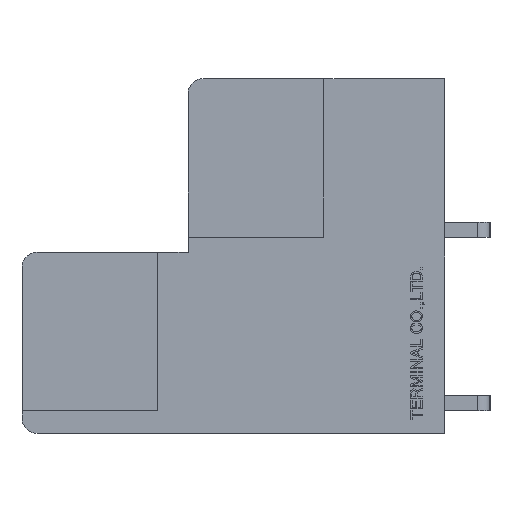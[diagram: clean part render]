
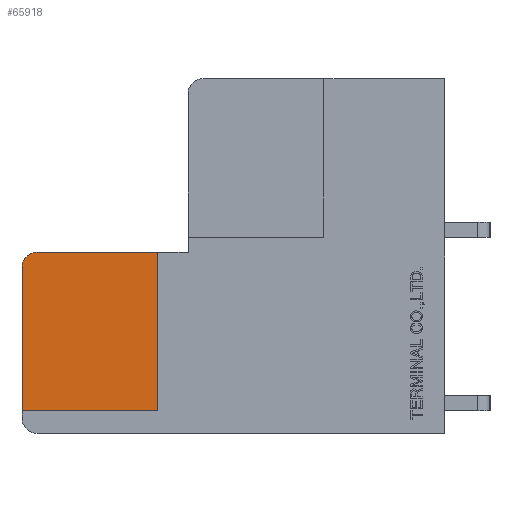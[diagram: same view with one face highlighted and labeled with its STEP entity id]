
A CAD part, left-side view. The second image highlights one B-rep face of the part: STEP entity #65918.
In plain terms, the highlighted planar face has unit normal (-1, 0, 0).
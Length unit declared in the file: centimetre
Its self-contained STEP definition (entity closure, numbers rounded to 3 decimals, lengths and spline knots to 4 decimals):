
#2553=VECTOR('',#68934,1.);
#3953=VECTOR('',#71886,1.);
#5218=VECTOR('',#74696,1.);
#5221=VECTOR('',#74700,1.);
#9860=LINE('',#81465,#2553);
#11260=LINE('',#85546,#3953);
#12525=LINE('',#89351,#5218);
#12528=LINE('',#89357,#5221);
#18130=PLANE('',#107998);
#20099=CIRCLE('',#107999,0.1);
#20459=VERTEX_POINT('',#81464);
#20460=VERTEX_POINT('',#81466);
#21767=VERTEX_POINT('',#85545);
#21768=VERTEX_POINT('',#85547);
#22939=VERTEX_POINT('',#89352);
#27269=EDGE_CURVE('',#20459,#20460,#9860,.T.);
#29227=EDGE_CURVE('',#21767,#21768,#11260,.T.);
#31048=EDGE_CURVE('',#22939,#21767,#12525,.T.);
#31051=EDGE_CURVE('',#20460,#22939,#12528,.T.);
#31546=EDGE_CURVE('',#21768,#20459,#20099,.T.);
#46079=ORIENTED_EDGE('',*,*,#31051,.F.);
#46080=ORIENTED_EDGE('',*,*,#27269,.F.);
#46081=ORIENTED_EDGE('',*,*,#31546,.F.);
#46082=ORIENTED_EDGE('',*,*,#29227,.F.);
#46083=ORIENTED_EDGE('',*,*,#31048,.F.);
#58033=EDGE_LOOP('',(#46079,#46080,#46081,#46082,#46083));
#62089=FACE_BOUND('',#58033,.T.);
#65918=ADVANCED_FACE('',(#62089),#18130,.F.);
#68934=DIRECTION('',(0.,-1.,0.));
#71886=DIRECTION('',(0.,0.,1.));
#74696=DIRECTION('',(0.,1.,0.));
#74700=DIRECTION('',(0.,0.,-1.));
#75219=DIRECTION('',(1.,0.,0.));
#75220=DIRECTION('',(1.,0.,0.));
#75221=DIRECTION('',(0.,0.,-0.1));
#81464=CARTESIAN_POINT('',(-1.1,2.7,1.2));
#81465=CARTESIAN_POINT('',(-1.1,2.7,1.2));
#81466=CARTESIAN_POINT('',(-1.1,1.9,1.2));
#85545=CARTESIAN_POINT('',(-1.1,2.8,0.15));
#85546=CARTESIAN_POINT('',(-1.1,2.8,0.1));
#85547=CARTESIAN_POINT('',(-1.1,2.8,1.1));
#89351=CARTESIAN_POINT('',(-1.1,2.8,0.15));
#89352=CARTESIAN_POINT('',(-1.1,1.9,0.15));
#89357=CARTESIAN_POINT('',(-1.1,1.9,0.15));
#90829=CARTESIAN_POINT('',(-1.1,1.3846,0.6));
#90830=CARTESIAN_POINT('',(-1.1,2.7,1.1));
#107998=AXIS2_PLACEMENT_3D('',#90829,#75219,$);
#107999=AXIS2_PLACEMENT_3D('',#90830,#75220,#75221);
